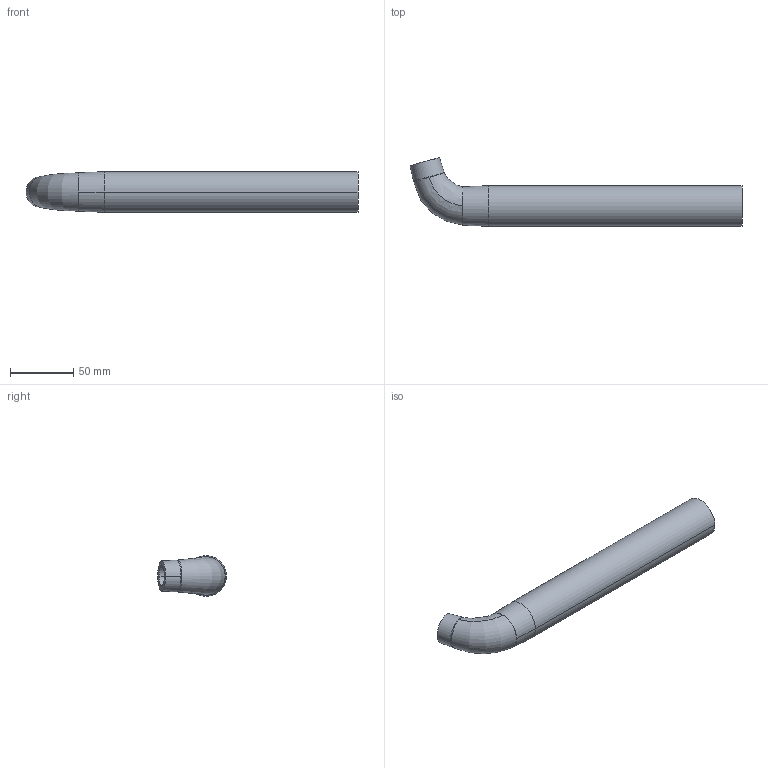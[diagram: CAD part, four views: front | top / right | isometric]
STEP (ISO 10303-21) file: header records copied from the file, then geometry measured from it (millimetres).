
FILE_DESCRIPTION( (''), '2;1');
FILE_NAME ('SY-2080-18_TB-32250-15-A.stp','2022-04-09T23:14:28',(''),(''),'spGate 18.9.3 (****-****-****-****)','','');
FILE_SCHEMA (('AUTOMOTIVE_DESIGN'));
Length unit declared in the file: millimetre
Products named in the file (13): Assembly; SY-2080-18_TB-32250-15-A-prt0; SY-2080-18_TB-32250-15-A-prt1; SY-2080-18_TB-32250-15-A-prt2; SY-2080-18_TB-32250-15-A-prt3; SY-2080-18_TB-32250-15-A-prt4; SY-2080-18_TB-32250-15-A-prt5; SY-2080-18_TB-32250-15-A-prt6; SY-2080-18_TB-32250-15-A-prt7; SY-2080-18_TB-32250-15-A-prt8; SY-2080-18_TB-32250-15-A-prt9; SY-2080-18_TB-32250-15-A-prt10; SY-2080-18_TB-32250-15-A-prt11
Assembly tree (12 placements, depth 2):
  Assembly
    SY-2080-18_TB-32250-15-A-prt0
    SY-2080-18_TB-32250-15-A-prt1
    SY-2080-18_TB-32250-15-A-prt2
    SY-2080-18_TB-32250-15-A-prt3
    SY-2080-18_TB-32250-15-A-prt4
    SY-2080-18_TB-32250-15-A-prt5
    SY-2080-18_TB-32250-15-A-prt6
    SY-2080-18_TB-32250-15-A-prt7
    SY-2080-18_TB-32250-15-A-prt8
    SY-2080-18_TB-32250-15-A-prt9
    SY-2080-18_TB-32250-15-A-prt10
    SY-2080-18_TB-32250-15-A-prt11
Bounding box: 261.59 x 54.11 x 32 mm (x, y, z)
Volume: 183768.1 mm3; surface area: 35745.9 mm2
Topology: 1 solids, 1 shells, 30 faces, 76 edges, 62 vertices
Faces by surface type: bspline 14, plane 8, cylinder 8
Entity records: 2895 total; most frequent: CARTESIAN_POINT 1389, DIRECTION 167, ORIENTED_EDGE 128, COLOUR_RGB 106, PRESENTATION_STYLE_ASSIGNMENT 106, STYLED_ITEM 106, AXIS2_PLACEMENT_3D 78, DRAUGHTING_PRE_DEFINED_CURVE_FONT 75
